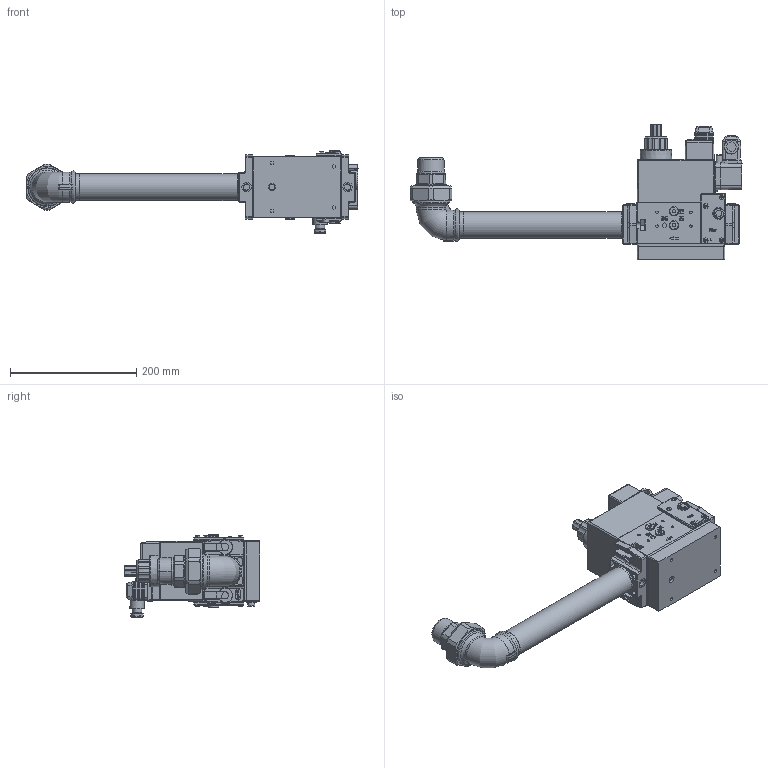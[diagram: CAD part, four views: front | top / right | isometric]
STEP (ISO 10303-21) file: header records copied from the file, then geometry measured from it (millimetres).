
FILE_DESCRIPTION (( 'STEP AP214' ), '1' );
FILE_NAME ('19990546.STEP', '2023-08-28T12:36:26', ( '' ), ( '' ), 'SwSTEP 2.0', 'SolidWorks 2021', '' );
FILE_SCHEMA (( 'AUTOMOTIVE_DESIGN' ));
Length unit declared in the file: millimetre
Products named in the file (10): 23522-04272; 0006020480-106620; 19990546; 23239-03493; 0005040038-03745; 23521-133483; 31341-03516; 31297-139460-AUTO; 0005180004-03490; 31297-139459
Assembly tree (10 placements, depth 3):
  19990546
    23239-03493
    0006020480-106620
    31341-03516  x2
    0005180004-03490
    31297-139459
      31297-139460-AUTO
      23521-133483
      23522-04272
      0005040038-03745
Bounding box: 525.98 x 215 x 130.4 mm (x, y, z)
Volume: 2844022.9 mm3; surface area: 326999.5 mm2
Topology: 9 solids, 9 shells, 3185 faces, 8057 edges, 5111 vertices
Faces by surface type: plane 1513, bspline 772, cylinder 634, cone 130, torus 125, sphere 11
Full cylindrical faces by diameter (mm): 0.7 x2, 1.5 x1, 2 x12, 2.459 x1, 2.5 x2, 3 x1, 4 x1, 5.391 x4, 7 x10, 7.3 x1, 8 x11, 9 x1, 10.6 x2, 11.359 x1, 13 x1, 14 x6, 15 x13, 15.2 x1, 15.8 x1, 18 x1, 22.5 x2, 26 x1, 35.9 x1, 36.15 x1, 38.952 x1, 41.91 x2, 42.4 x1, 43 x1, 52.7 x1, 53 x1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
Entity records: 109703 total; most frequent: CARTESIAN_POINT 42731, ORIENTED_EDGE 13912, DIRECTION 10236, EDGE_CURVE 6956, VERTEX_POINT 4542, VECTOR 3968, LINE 3968, EDGE_LOOP 3278
